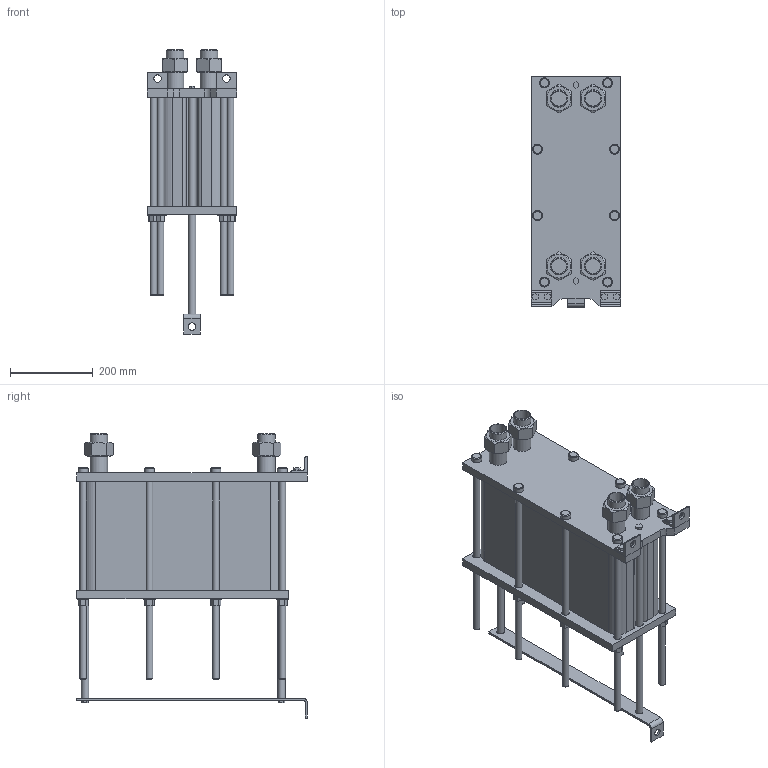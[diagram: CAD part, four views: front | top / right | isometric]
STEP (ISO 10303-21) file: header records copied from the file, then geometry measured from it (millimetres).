
FILE_DESCRIPTION(/* description */ (''),/* implementation_level */ '2;1');
FILE_NAME(/* name */ 'C:\Users\zhuro\Desktop\ENCO\TO\ЭН-004\ЭН-0,5-004-85-1.stp',/* time_stamp */ '2022-06-06T10:50:45+03:00',/* author */ ('zhuro'),/* organization */ (''),/* preprocessor_version */ 'ST-DEVELOPER v18.1',/* originating_system */ 'Autodesk Inventor 2022',/* authorisation */ '');
FILE_SCHEMA (('AUTOMOTIVE_DESIGN { 1 0 10303 214 3 1 1 }'));
Length unit declared in the file: millimetre
Products named in the file (1): ЭН-0,5-004-85-1
Bounding box: 216 x 555 x 685 mm (x, y, z)
Volume: 25463364.9 mm3; surface area: 1529306.7 mm2
Topology: 40 solids, 40 shells, 403 faces, 865 edges, 574 vertices
Faces by surface type: plane 272, cylinder 103, cone 28
Full cylindrical faces by diameter (mm): 10 x4, 16 x16, 18 x29, 20 x2, 24 x8, 28 x8, 36.3 x5, 42.3 x9
Entity records: 11137 total; most frequent: CARTESIAN_POINT 1939, DIRECTION 1879, ORIENTED_EDGE 1730, EDGE_CURVE 865, AXIS2_PLACEMENT_3D 658, VERTEX_POINT 574, LINE 563, VECTOR 563
